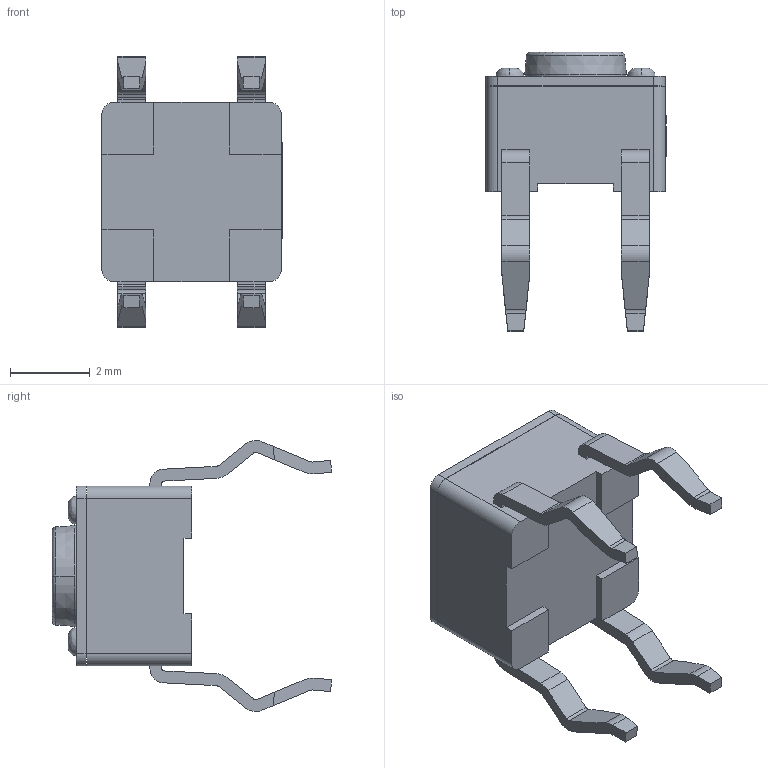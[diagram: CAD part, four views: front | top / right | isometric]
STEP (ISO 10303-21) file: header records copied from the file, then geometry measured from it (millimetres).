
FILE_DESCRIPTION((''),'2;1');
FILE_NAME('ASM0002_ASM','2024-01-06T',('WYH'),(''),'PRO/ENGINEER BY PARAMETRIC TECHNOLOGY CORPORATION, 2013040','PRO/ENGINEER BY PARAMETRIC TECHNOLOGY CORPORATION, 2013040','');
FILE_SCHEMA(('CONFIG_CONTROL_DESIGN'));
Length unit declared in the file: millimetre
Products named in the file (1): ASM0002_ASM
Bounding box: 4.52 x 7.01 x 6.8 mm (x, y, z)
Volume: 62.7 mm3; surface area: 173.6 mm2
Topology: 1 solids, 1 shells, 204 faces, 594 edges, 408 vertices
Faces by surface type: plane 137, cylinder 55, bspline 8, cone 2, torus 2
Entity records: 7090 total; most frequent: CARTESIAN_POINT 1560, ORIENTED_EDGE 1188, DIRECTION 1102, EDGE_CURVE 594, VECTOR 414, LINE 414, VERTEX_POINT 408, AXIS2_PLACEMENT_3D 344
